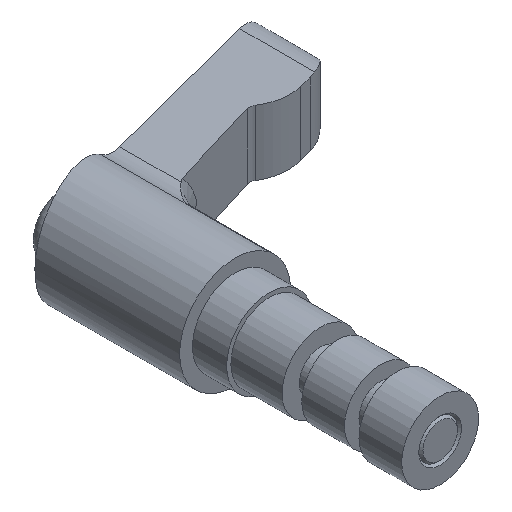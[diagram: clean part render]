
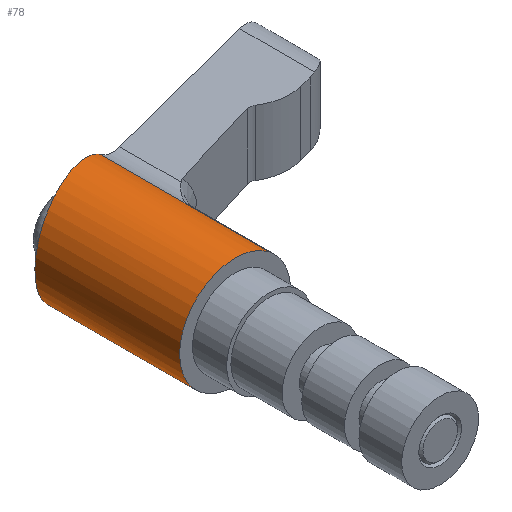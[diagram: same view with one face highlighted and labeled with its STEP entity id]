
A CAD part, isometric view. The second image highlights one B-rep face of the part: STEP entity #78.
In plain terms, the highlighted cylindrical face has radius 6.5 mm (diameter 13 mm), a partial arc.
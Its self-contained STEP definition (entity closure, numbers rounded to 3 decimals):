
#78 = ADVANCED_FACE( '', ( #134 ), #135, .T. );
#134 = FACE_OUTER_BOUND( '', #257, .T. );
#135 = CYLINDRICAL_SURFACE( '', #258, 6.5 );
#257 = EDGE_LOOP( '', ( #402, #403, #404, #405 ) );
#258 = AXIS2_PLACEMENT_3D( '', #406, #407, #408 );
#402 = ORIENTED_EDGE( '', *, *, #746, .F. );
#403 = ORIENTED_EDGE( '', *, *, #754, .F. );
#404 = ORIENTED_EDGE( '', *, *, #755, .T. );
#405 = ORIENTED_EDGE( '', *, *, #753, .F. );
#406 = CARTESIAN_POINT( '', ( 0., 24., 0. ) );
#407 = DIRECTION( '', ( 0., 1., 0. ) );
#408 = DIRECTION( '', ( 0., 0., -1. ) );
#746 = EDGE_CURVE( '', #859, #861, #862, .T. );
#753 = EDGE_CURVE( '', #861, #871, #874, .T. );
#754 = EDGE_CURVE( '', #875, #859, #876, .T. );
#755 = EDGE_CURVE( '', #875, #871, #877, .T. );
#859 = VERTEX_POINT( '', #1049 );
#861 = VERTEX_POINT( '', #1051 );
#862 = LINE( '', #1052, #1053 );
#871 = VERTEX_POINT( '', #1081 );
#874 = CIRCLE( '', #1087, 6.5 );
#875 = VERTEX_POINT( '', #1088 );
#876 = ELLIPSE( '', #1089, 6.729, 6.5 );
#877 = LINE( '', #1090, #1091 );
#1049 = CARTESIAN_POINT( '', ( 3.945, 43.748, 5.166 ) );
#1051 = CARTESIAN_POINT( '', ( 3.945, 24., 5.166 ) );
#1052 = CARTESIAN_POINT( '', ( 3.945, 54.5, 5.166 ) );
#1053 = VECTOR( '', #1395, 1000. );
#1081 = CARTESIAN_POINT( '', ( 3.945, 24., -5.166 ) );
#1087 = AXIS2_PLACEMENT_3D( '', #1403, #1404, #1405 );
#1088 = CARTESIAN_POINT( '', ( 3.945, 43.748, -5.166 ) );
#1089 = AXIS2_PLACEMENT_3D( '', #1406, #1407, #1408 );
#1090 = CARTESIAN_POINT( '', ( 3.945, 54.5, -5.166 ) );
#1091 = VECTOR( '', #1409, 1000. );
#1395 = DIRECTION( '', ( 0., -1., 0. ) );
#1403 = CARTESIAN_POINT( '', ( 0., 24., 0. ) );
#1404 = DIRECTION( '', ( 0., -1., 0. ) );
#1405 = DIRECTION( '', ( 0., 0., -1. ) );
#1406 = CARTESIAN_POINT( '', ( 0., 42.69, 0. ) );
#1407 = DIRECTION( '', ( -0.259, 0.966, 0. ) );
#1408 = DIRECTION( '', ( -0.966, -0.259, 0. ) );
#1409 = DIRECTION( '', ( 0., -1., 0. ) );
